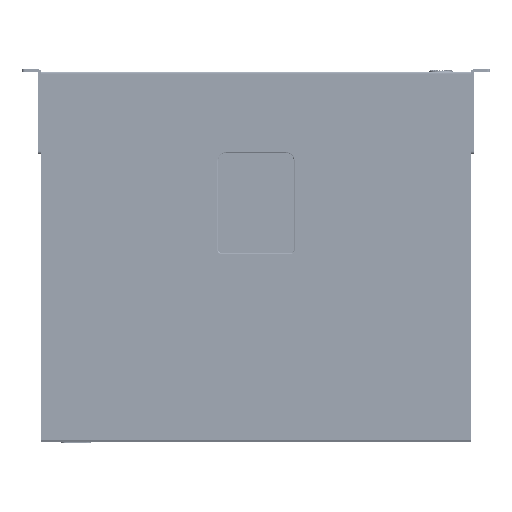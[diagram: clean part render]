
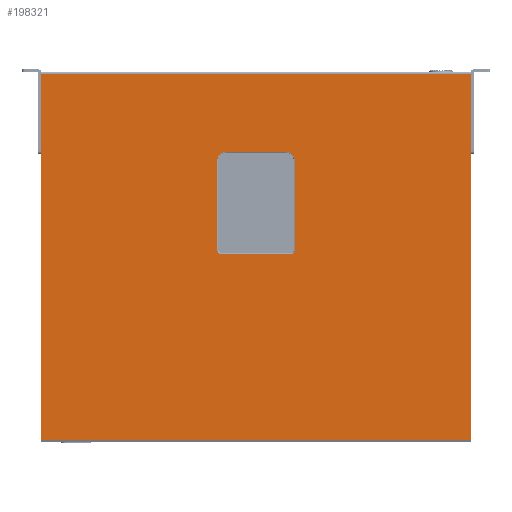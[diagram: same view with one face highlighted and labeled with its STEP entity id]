
A CAD part, front view. The second image highlights one B-rep face of the part: STEP entity #198321.
In plain terms, the highlighted planar face has unit normal (0, -1, 0).
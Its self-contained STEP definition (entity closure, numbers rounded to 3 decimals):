
#1973 = CARTESIAN_POINT ( 'NONE',  ( 36., 0., -183.5 ) ) ;
#8816 = AXIS2_PLACEMENT_3D ( 'NONE', #160970, #139671, #270697 ) ;
#13279 = VECTOR ( 'NONE', #154830, 1000. ) ;
#13966 = EDGE_CURVE ( 'NONE', #125404, #182689, #277427, .T. ) ;
#14646 = CARTESIAN_POINT ( 'NONE',  ( -31., 0., -91.5 ) ) ;
#15448 = LINE ( 'NONE', #146414, #137113 ) ;
#17818 = CARTESIAN_POINT ( 'NONE',  ( -40.018, 0., -91.5 ) ) ;
#20480 = EDGE_CURVE ( 'NONE', #111491, #124472, #122399, .T. ) ;
#20712 = AXIS2_PLACEMENT_3D ( 'NONE', #251588, #208938, #79288 ) ;
#27328 = EDGE_CURVE ( 'NONE', #202996, #172188, #32142, .T. ) ;
#28218 = LINE ( 'NONE', #243359, #246680 ) ;
#30874 = CARTESIAN_POINT ( 'NONE',  ( -221.5, 0., -381. ) ) ;
#32142 = LINE ( 'NONE', #118955, #77612 ) ;
#36875 = EDGE_CURVE ( 'NONE', #193537, #52600, #125265, .T. ) ;
#38638 = ORIENTED_EDGE ( 'NONE', *, *, #258468, .F. ) ;
#39339 = ORIENTED_EDGE ( 'NONE', *, *, #125711, .T. ) ;
#42812 = ORIENTED_EDGE ( 'NONE', *, *, #36875, .T. ) ;
#43681 = CARTESIAN_POINT ( 'NONE',  ( -40.018, 0., -91.5 ) ) ;
#48285 = DIRECTION ( 'NONE',  ( 0., 0., -1. ) ) ;
#48578 = ORIENTED_EDGE ( 'NONE', *, *, #27328, .T. ) ;
#48855 = EDGE_CURVE ( 'NONE', #201891, #202996, #211682, .T. ) ;
#49348 = CARTESIAN_POINT ( 'NONE',  ( -36., 0., -187.518 ) ) ;
#50123 = CARTESIAN_POINT ( 'NONE',  ( 40.018, 0., -183.5 ) ) ;
#52600 = VERTEX_POINT ( 'NONE', #255135 ) ;
#53787 = CARTESIAN_POINT ( 'NONE',  ( -221.5, 0., -1.6 ) ) ;
#56282 = VECTOR ( 'NONE', #241278, 1000. ) ;
#63345 = DIRECTION ( 'NONE',  ( 0., 0., 1. ) ) ;
#67566 = LINE ( 'NONE', #154351, #56282 ) ;
#72322 = LINE ( 'NONE', #154893, #79520 ) ;
#74451 = DIRECTION ( 'NONE',  ( 0., 1., 0. ) ) ;
#77612 = VECTOR ( 'NONE', #156138, 1000. ) ;
#79288 = DIRECTION ( 'NONE',  ( 0., 0., 1. ) ) ;
#79520 = VECTOR ( 'NONE', #244631, 1000. ) ;
#80967 = DIRECTION ( 'NONE',  ( -1., 0., 0. ) ) ;
#83454 = ORIENTED_EDGE ( 'NONE', *, *, #103153, .T. ) ;
#92080 = DIRECTION ( 'NONE',  ( 0., 0., 1. ) ) ;
#103153 = EDGE_CURVE ( 'NONE', #256501, #175834, #72322, .T. ) ;
#111491 = VERTEX_POINT ( 'NONE', #49348 ) ;
#113268 = ORIENTED_EDGE ( 'NONE', *, *, #146404, .T. ) ;
#113295 = LINE ( 'NONE', #43681, #265524 ) ;
#113490 = EDGE_LOOP ( 'NONE', ( #113268, #239101, #48578, #206856, #39339, #166202, #221715, #42812 ) ) ;
#114113 = CARTESIAN_POINT ( 'NONE',  ( 40.018, 0., -91.5 ) ) ;
#116858 = CARTESIAN_POINT ( 'NONE',  ( -221.5, 0., -379.4 ) ) ;
#117091 = CARTESIAN_POINT ( 'NONE',  ( 0., 0., 0. ) ) ;
#118955 = CARTESIAN_POINT ( 'NONE',  ( 40.018, 0., -183.5 ) ) ;
#119552 = CIRCLE ( 'NONE', #246859, 4.018 ) ;
#122399 = CIRCLE ( 'NONE', #8816, 4.018 ) ;
#124472 = VERTEX_POINT ( 'NONE', #141231 ) ;
#125265 = CIRCLE ( 'NONE', #193430, 9.018 ) ;
#125404 = VERTEX_POINT ( 'NONE', #193645 ) ;
#125711 = EDGE_CURVE ( 'NONE', #160284, #111491, #67566, .T. ) ;
#136304 = EDGE_CURVE ( 'NONE', #172188, #160284, #119552, .T. ) ;
#137113 = VECTOR ( 'NONE', #236105, 1000. ) ;
#138546 = FACE_BOUND ( 'NONE', #113490, .T. ) ;
#139671 = DIRECTION ( 'NONE',  ( 0., 1., 0. ) ) ;
#141231 = CARTESIAN_POINT ( 'NONE',  ( -40.018, 0., -183.5 ) ) ;
#146404 = EDGE_CURVE ( 'NONE', #52600, #201891, #15448, .T. ) ;
#146414 = CARTESIAN_POINT ( 'NONE',  ( 31., 0., -82.482 ) ) ;
#154351 = CARTESIAN_POINT ( 'NONE',  ( -36., 0., -187.518 ) ) ;
#154830 = DIRECTION ( 'NONE',  ( 0., 0., 1. ) ) ;
#154893 = CARTESIAN_POINT ( 'NONE',  ( 0., 0., -379.4 ) ) ;
#156138 = DIRECTION ( 'NONE',  ( 0., 0., -1. ) ) ;
#156750 = CARTESIAN_POINT ( 'NONE',  ( 36., 0., -187.518 ) ) ;
#160284 = VERTEX_POINT ( 'NONE', #156750 ) ;
#160970 = CARTESIAN_POINT ( 'NONE',  ( -36., 0., -183.5 ) ) ;
#162687 = FACE_OUTER_BOUND ( 'NONE', #229562, .T. ) ;
#166202 = ORIENTED_EDGE ( 'NONE', *, *, #20480, .T. ) ;
#172027 = CARTESIAN_POINT ( 'NONE',  ( 0., 0., -1.6 ) ) ;
#172188 = VERTEX_POINT ( 'NONE', #50123 ) ;
#175279 = ORIENTED_EDGE ( 'NONE', *, *, #13966, .T. ) ;
#175834 = VERTEX_POINT ( 'NONE', #181942 ) ;
#181942 = CARTESIAN_POINT ( 'NONE',  ( 221.5, 0., -379.4 ) ) ;
#182689 = VERTEX_POINT ( 'NONE', #53787 ) ;
#189729 = DIRECTION ( 'NONE',  ( 0., 0., 1. ) ) ;
#192872 = DIRECTION ( 'NONE',  ( 0., 1., 0. ) ) ;
#193430 = AXIS2_PLACEMENT_3D ( 'NONE', #14646, #255216, #189729 ) ;
#193537 = VERTEX_POINT ( 'NONE', #17818 ) ;
#193645 = CARTESIAN_POINT ( 'NONE',  ( 221.5, 0., -1.6 ) ) ;
#198321 = ADVANCED_FACE ( 'NONE', ( #138546, #162687 ), #225482, .F. ) ;
#201014 = CARTESIAN_POINT ( 'NONE',  ( 31., 0., -82.482 ) ) ;
#201891 = VERTEX_POINT ( 'NONE', #201014 ) ;
#202996 = VERTEX_POINT ( 'NONE', #114113 ) ;
#206856 = ORIENTED_EDGE ( 'NONE', *, *, #136304, .T. ) ;
#208938 = DIRECTION ( 'NONE',  ( 0., 1., 0. ) ) ;
#211682 = CIRCLE ( 'NONE', #20712, 9.018 ) ;
#221715 = ORIENTED_EDGE ( 'NONE', *, *, #280924, .T. ) ;
#225482 = PLANE ( 'NONE',  #274509 ) ;
#226069 = LINE ( 'NONE', #30874, #13279 ) ;
#227623 = EDGE_CURVE ( 'NONE', #125404, #175834, #28218, .T. ) ;
#229562 = EDGE_LOOP ( 'NONE', ( #38638, #83454, #232750, #175279 ) ) ;
#232750 = ORIENTED_EDGE ( 'NONE', *, *, #227623, .F. ) ;
#236105 = DIRECTION ( 'NONE',  ( 1., 0., 0. ) ) ;
#239101 = ORIENTED_EDGE ( 'NONE', *, *, #48855, .T. ) ;
#241278 = DIRECTION ( 'NONE',  ( -1., 0., 0. ) ) ;
#243359 = CARTESIAN_POINT ( 'NONE',  ( 221.5, 0., -381. ) ) ;
#244631 = DIRECTION ( 'NONE',  ( 1., 0., 0. ) ) ;
#246680 = VECTOR ( 'NONE', #48285, 1000. ) ;
#246859 = AXIS2_PLACEMENT_3D ( 'NONE', #1973, #192872, #63345 ) ;
#248191 = DIRECTION ( 'NONE',  ( 0., 0., 1. ) ) ;
#251588 = CARTESIAN_POINT ( 'NONE',  ( 31., 0., -91.5 ) ) ;
#255135 = CARTESIAN_POINT ( 'NONE',  ( -31., 0., -82.482 ) ) ;
#255216 = DIRECTION ( 'NONE',  ( 0., 1., 0. ) ) ;
#256501 = VERTEX_POINT ( 'NONE', #116858 ) ;
#258468 = EDGE_CURVE ( 'NONE', #256501, #182689, #226069, .T. ) ;
#265524 = VECTOR ( 'NONE', #92080, 1000. ) ;
#265655 = VECTOR ( 'NONE', #80967, 1000. ) ;
#270697 = DIRECTION ( 'NONE',  ( 0., 0., 1. ) ) ;
#274509 = AXIS2_PLACEMENT_3D ( 'NONE', #117091, #74451, #248191 ) ;
#277427 = LINE ( 'NONE', #172027, #265655 ) ;
#280924 = EDGE_CURVE ( 'NONE', #124472, #193537, #113295, .T. ) ;
